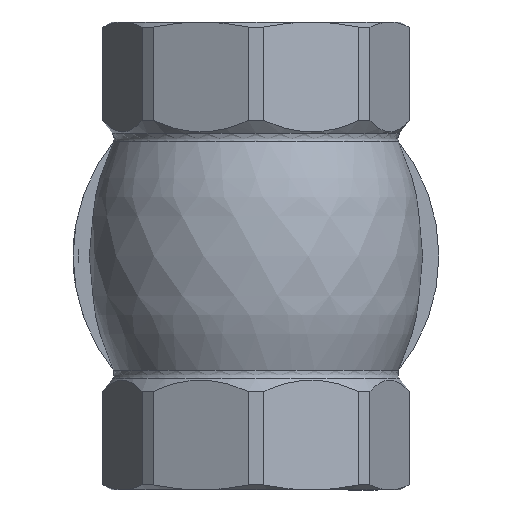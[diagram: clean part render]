
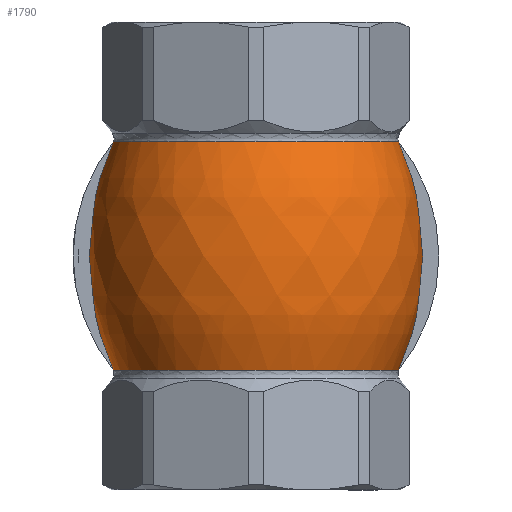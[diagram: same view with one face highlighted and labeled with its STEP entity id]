
A CAD part, front view. The second image highlights one B-rep face of the part: STEP entity #1790.
In plain terms, the highlighted free-form (B-spline) face has degree [2, 2] with [3, 9] control points.
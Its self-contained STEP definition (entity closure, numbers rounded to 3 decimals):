
#37=(
BOUNDED_SURFACE()
B_SPLINE_SURFACE(2,2,((#2891,#2892,#2893,#2894,#2895,#2896,#2897,#2898,
#2899),(#2900,#2901,#2902,#2903,#2904,#2905,#2906,#2907,#2908),(#2909,#2910,
#2911,#2912,#2913,#2914,#2915,#2916,#2917)),.UNSPECIFIED.,.F.,.F.,.F.)
B_SPLINE_SURFACE_WITH_KNOTS((3,3),(3,2,2,2,3),(-0.421,0.421),
(-4.199,-2.885,-1.571,-0.257,
1.057),.UNSPECIFIED.)
GEOMETRIC_REPRESENTATION_ITEM()
RATIONAL_B_SPLINE_SURFACE(((1.,0.792,1.,0.792,1.,
0.792,1.,0.792,1.),(0.913,0.723,
0.913,0.723,0.913,0.723,
0.913,0.723,0.913),(1.,0.792,
1.,0.792,1.,0.792,1.,0.792,1.)))
REPRESENTATION_ITEM('')
SURFACE()
);
#124=B_SPLINE_CURVE_WITH_KNOTS('',3,(#2919,#2920,#2921,#2922,#2923,#2924,
#2925,#2926,#2927,#2928,#2929,#2930,#2931,#2932,#2933,#2934),
 .UNSPECIFIED.,.F.,.F.,(4,2,2,2,2,2,2,4),(-13.366,-13.346,
-12.118,-10.926,-9.827,-8.656,
-7.34,-6.793),.UNSPECIFIED.);
#125=B_SPLINE_CURVE_WITH_KNOTS('',3,(#2937,#2938,#2939,#2940,#2941,#2942,
#2943,#2944,#2945,#2946,#2947,#2948,#2949,#2950,#2951,#2952,#2953),
 .UNSPECIFIED.,.F.,.F.,(4,2,2,3,2,2,2,4),(-3.288,-2.338,
-1.101,0.,0.846,1.721,3.045,
3.283),.UNSPECIFIED.);
#448=FACE_OUTER_BOUND('',#635,.T.);
#635=EDGE_LOOP('',(#1355,#1356,#1357,#1358));
#774=CIRCLE('',#1985,33.494);
#776=CIRCLE('',#1987,33.494);
#871=VERTEX_POINT('',#2871);
#873=VERTEX_POINT('',#2881);
#875=VERTEX_POINT('',#2918);
#876=VERTEX_POINT('',#2935);
#1050=EDGE_CURVE('',#871,#873,#774,.T.);
#1053=EDGE_CURVE('',#875,#871,#124,.T.);
#1054=EDGE_CURVE('',#875,#876,#776,.T.);
#1055=EDGE_CURVE('',#873,#876,#125,.T.);
#1355=ORIENTED_EDGE('',*,*,#1053,.F.);
#1356=ORIENTED_EDGE('',*,*,#1054,.T.);
#1357=ORIENTED_EDGE('',*,*,#1055,.F.);
#1358=ORIENTED_EDGE('',*,*,#1050,.F.);
#1790=ADVANCED_FACE('',(#448),#37,.F.);
#1985=AXIS2_PLACEMENT_3D('',#2882,#2343,#2344);
#1987=AXIS2_PLACEMENT_3D('',#2936,#2347,#2348);
#2343=DIRECTION('center_axis',(0.,0.,-1.));
#2344=DIRECTION('ref_axis',(0.,1.,0.));
#2347=DIRECTION('center_axis',(0.,0.,-1.));
#2348=DIRECTION('ref_axis',(0.,1.,0.));
#2871=CARTESIAN_POINT('',(1593.536,41.893,1369.573));
#2881=CARTESIAN_POINT('',(1560.61,41.893,1369.573));
#2882=CARTESIAN_POINT('Origin',(1577.073,12.724,1369.573));
#2891=CARTESIAN_POINT('Ctrl Pts',(1560.61,41.893,1369.573));
#2892=CARTESIAN_POINT('Ctrl Pts',(1538.114,29.197,1369.573));
#2893=CARTESIAN_POINT('Ctrl Pts',(1544.678,4.213,1369.573));
#2894=CARTESIAN_POINT('Ctrl Pts',(1551.242,-20.77,1369.573));
#2895=CARTESIAN_POINT('Ctrl Pts',(1577.073,-20.77,1369.573));
#2896=CARTESIAN_POINT('Ctrl Pts',(1602.904,-20.77,1369.573));
#2897=CARTESIAN_POINT('Ctrl Pts',(1609.468,4.213,1369.573));
#2898=CARTESIAN_POINT('Ctrl Pts',(1616.032,29.197,1369.573));
#2899=CARTESIAN_POINT('Ctrl Pts',(1593.536,41.893,1369.573));
#2900=CARTESIAN_POINT('Ctrl Pts',(1554.702,52.362,1396.431));
#2901=CARTESIAN_POINT('Ctrl Pts',(1524.132,35.109,1396.431));
#2902=CARTESIAN_POINT('Ctrl Pts',(1533.052,1.159,1396.431));
#2903=CARTESIAN_POINT('Ctrl Pts',(1541.971,-32.791,1396.431));
#2904=CARTESIAN_POINT('Ctrl Pts',(1577.073,-32.791,1396.431));
#2905=CARTESIAN_POINT('Ctrl Pts',(1612.175,-32.791,1396.431));
#2906=CARTESIAN_POINT('Ctrl Pts',(1621.094,1.159,1396.431));
#2907=CARTESIAN_POINT('Ctrl Pts',(1630.014,35.109,1396.431));
#2908=CARTESIAN_POINT('Ctrl Pts',(1599.445,52.362,1396.431));
#2909=CARTESIAN_POINT('Ctrl Pts',(1560.61,41.893,1423.288));
#2910=CARTESIAN_POINT('Ctrl Pts',(1538.114,29.197,1423.288));
#2911=CARTESIAN_POINT('Ctrl Pts',(1544.678,4.213,1423.288));
#2912=CARTESIAN_POINT('Ctrl Pts',(1551.242,-20.77,1423.288));
#2913=CARTESIAN_POINT('Ctrl Pts',(1577.073,-20.77,1423.288));
#2914=CARTESIAN_POINT('Ctrl Pts',(1602.904,-20.77,1423.288));
#2915=CARTESIAN_POINT('Ctrl Pts',(1609.468,4.213,1423.288));
#2916=CARTESIAN_POINT('Ctrl Pts',(1616.032,29.197,1423.288));
#2917=CARTESIAN_POINT('Ctrl Pts',(1593.536,41.893,1423.288));
#2918=CARTESIAN_POINT('',(1593.536,41.893,1423.288));
#2919=CARTESIAN_POINT('Ctrl Pts',(1593.536,41.893,1423.288));
#2920=CARTESIAN_POINT('Ctrl Pts',(1593.59,41.88,1423.254));
#2921=CARTESIAN_POINT('Ctrl Pts',(1593.644,41.866,1423.221));
#2922=CARTESIAN_POINT('Ctrl Pts',(1597.1,40.996,1421.074));
#2923=CARTESIAN_POINT('Ctrl Pts',(1600.056,39.965,1418.338));
#2924=CARTESIAN_POINT('Ctrl Pts',(1604.71,38.078,1412.033));
#2925=CARTESIAN_POINT('Ctrl Pts',(1606.434,37.224,1408.503));
#2926=CARTESIAN_POINT('Ctrl Pts',(1608.42,36.2,1401.208));
#2927=CARTESIAN_POINT('Ctrl Pts',(1608.766,36.003,1397.576));
#2928=CARTESIAN_POINT('Ctrl Pts',(1608.165,36.327,1390.036));
#2929=CARTESIAN_POINT('Ctrl Pts',(1607.141,36.889,1386.289));
#2930=CARTESIAN_POINT('Ctrl Pts',(1603.641,38.533,1378.97));
#2931=CARTESIAN_POINT('Ctrl Pts',(1601.026,39.645,1375.532));
#2932=CARTESIAN_POINT('Ctrl Pts',(1596.485,41.102,1371.558));
#2933=CARTESIAN_POINT('Ctrl Pts',(1595.053,41.515,1370.503));
#2934=CARTESIAN_POINT('Ctrl Pts',(1593.536,41.893,1369.573));
#2935=CARTESIAN_POINT('',(1560.61,41.893,1423.288));
#2936=CARTESIAN_POINT('Origin',(1577.073,12.724,1423.288));
#2937=CARTESIAN_POINT('Ctrl Pts',(1560.61,41.893,1369.573));
#2938=CARTESIAN_POINT('Ctrl Pts',(1557.973,41.236,1371.19));
#2939=CARTESIAN_POINT('Ctrl Pts',(1555.598,40.473,1373.18));
#2940=CARTESIAN_POINT('Ctrl Pts',(1550.894,38.73,1378.459));
#2941=CARTESIAN_POINT('Ctrl Pts',(1548.806,37.757,1381.947));
#2942=CARTESIAN_POINT('Ctrl Pts',(1546.209,36.465,1389.166));
#2943=CARTESIAN_POINT('Ctrl Pts',(1545.572,36.106,1392.762));
#2944=CARTESIAN_POINT('Ctrl Pts',(1545.572,36.106,1396.431));
#2945=CARTESIAN_POINT('Ctrl Pts',(1545.572,36.106,1399.252));
#2946=CARTESIAN_POINT('Ctrl Pts',(1545.949,36.316,1402.037));
#2947=CARTESIAN_POINT('Ctrl Pts',(1547.446,37.087,1407.516));
#2948=CARTESIAN_POINT('Ctrl Pts',(1548.578,37.651,1410.158));
#2949=CARTESIAN_POINT('Ctrl Pts',(1552.243,39.263,1416.287));
#2950=CARTESIAN_POINT('Ctrl Pts',(1555.181,40.398,1419.487));
#2951=CARTESIAN_POINT('Ctrl Pts',(1559.304,41.557,1422.454));
#2952=CARTESIAN_POINT('Ctrl Pts',(1559.949,41.728,1422.883));
#2953=CARTESIAN_POINT('Ctrl Pts',(1560.61,41.893,1423.288));
